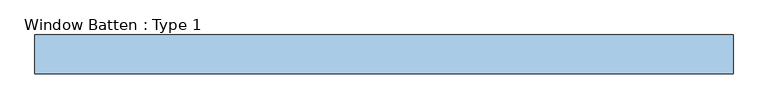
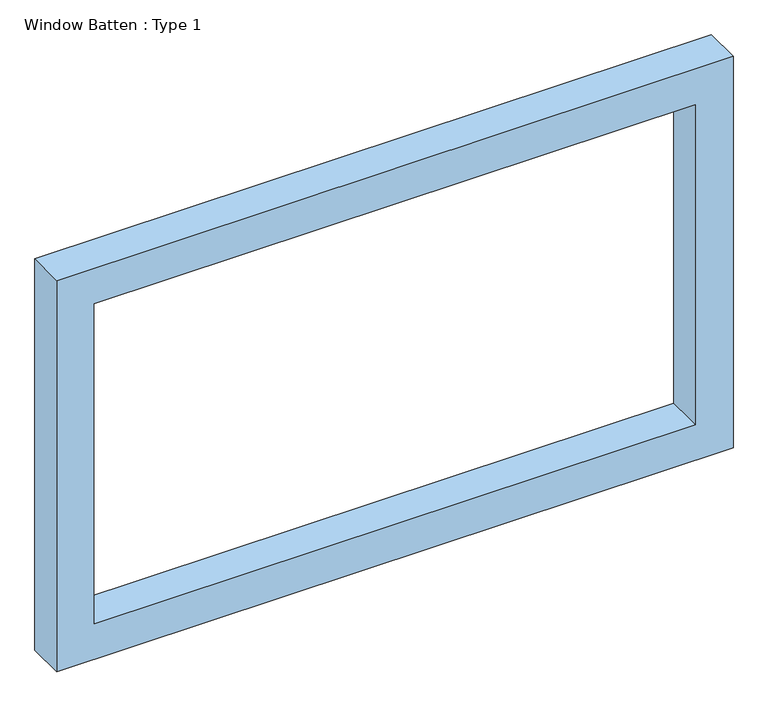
"""IFC4 building model written with IfcOpenShell, lengths in millimetres: window geometry, Window Batten : Type 1."""

from ifc_helpers import new_model, si_unit, frame, origin, place, context, project, spatial, polyline, outline, extrude, source, transform, mapped, element, save


def window_batten_type_1_9c5b8c0b(model_context):
    return source(origin(), model_context, "Body", "SweptSolid", [
        extrude(outline(polyline([(2708.8484214, -1672.9831678), (508.8209187, -1672.9831678), (508.8209187, 1922.9831678), (2708.8484214, 1922.9831678), (2708.8484214, -1672.9831678)]), holes=[polyline([(2508.8484214, -1472.9831678), (2508.8484214, 1722.9831678), (708.8209187, 1722.9831678), (708.8209187, -1472.9831678), (2508.8484214, -1472.9831678)])]), frame((0.0, -310.0, 0.0), z_axis=(0.0, 1.0, 0.0), x_axis=(0.0, 0.0, 1.0)), (0.0, 0.0, 1.0), 200.0),
    ])


if __name__ == "__main__":
    model = new_model("IFC4")
    model_context = context("Model", 3, world=origin())
    ifc_project = project(units=[si_unit("LENGTHUNIT", "METRE", prefix="MILLI")], contexts=[model_context])
    site = spatial("IfcSite", under=ifc_project)
    building = spatial("IfcBuilding", under=site)
    placement = place(None, origin())
    window_batten_type_1_shape = window_batten_type_1_9c5b8c0b(model_context)
    element("IfcWindow", 1, ObjectType="Window Batten : Type 1", at=placement, inside=building, context=model_context, shape_type="MappedRepresentation", body=[
        mapped(window_batten_type_1_shape, transform((0.0, 0.0, 0.0), x_axis=(1.0, 0.0, 0.0), y_axis=(0.0, 1.0, 0.0), z_axis=(0.0, 0.0, 1.0))),
    ])
    save(model, "model.ifc")
